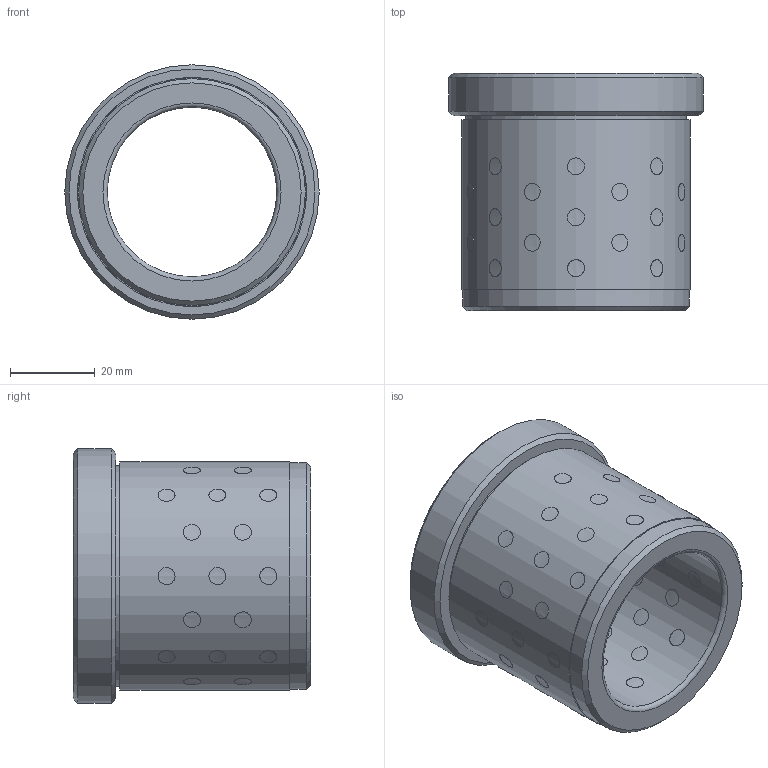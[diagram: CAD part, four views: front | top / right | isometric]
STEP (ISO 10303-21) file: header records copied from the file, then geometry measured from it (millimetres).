
FILE_DESCRIPTION( ( 'STEP AP203' ), '1' );
FILE_NAME( 'D:/Cuma/D30.05/D30.05_4056.step', '2003-01-20T18:26:54', ( ' ' ), ( ' ' ), 'XStep 1.0', ' ', ' ' );
FILE_SCHEMA( ( 'CONFIG_CONTROL_DESIGN' ) );
Length unit declared in the file: metre
Products named in the file (57): 1; 2; 3; 4; 5; 6; 7; 8; 9; 10; 11; 12; 13; 14; 15; 16; 17; 18; 19; 20; 21; 22; 23; 24; 25; 26; 27; 28; 29; 30; 31; 32; 33; 34; 35; 36; 37; 38; 39; 40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
Bounding box: 60 x 56 x 60 mm (x, y, z)
Volume: 67258.2 mm3; surface area: 25995.7 mm2
Topology: 57 solids, 57 shells, 183 faces, 193 edges, 127 vertices
Faces by surface type: cylinder 173, plane 5, cone 3, torus 2
Full cylindrical faces by diameter (mm): 4 x56, 40 x1, 52 x1, 53.5 x1, 54 x1, 60 x1
Entity records: 11329 total; most frequent: CARTESIAN_POINT 6542, DIRECTION 510, CC_DESIGN_PERSON_AND_ORGANIZATION_ASSIGNMENT 285, AXIS2_PLACEMENT_3D 255, EDGE_LOOP 254, ORIENTED_EDGE 254, FACE_OUTER_BOUND 246, PERSON_AND_ORGANIZATION_ROLE 228
